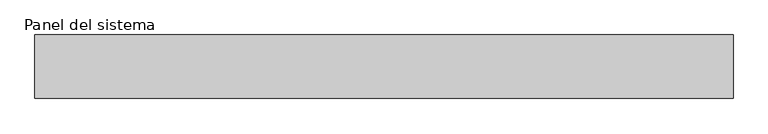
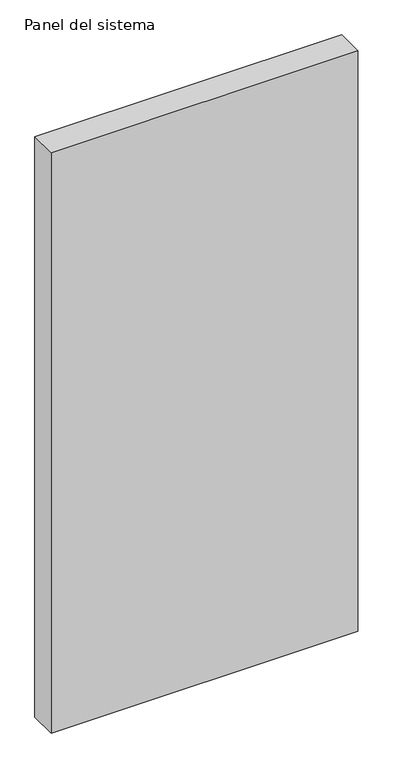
"""IFC4 building model written with IfcOpenShell, lengths in millimetres: plate geometry, Panel del sistema : Hiansa Panel - Fachada Panel PERFILADO Vert - 100mm."""

from ifc_helpers import new_model, si_unit, origin, origin_with_axes, place, context, project, spatial, polyline, outline, extrude, source, transform, mapped, element, save


def panel_del_sistema_becaef52(model_context):
    return source(origin(), model_context, "Body", "SweptSolid", [
        extrude(outline(polyline([(550.0000002, -100.0), (-550.0000002, -100.0), (-550.0000002, 0.0), (550.0000002, 0.0), (550.0000002, -100.0)])), origin_with_axes(), (0.0, 0.0, 1.0), 2200.0),
    ])


if __name__ == "__main__":
    model = new_model("IFC4")
    model_context = context("Model", 3, world=origin())
    ifc_project = project(units=[si_unit("LENGTHUNIT", "METRE", prefix="MILLI")], contexts=[model_context])
    site = spatial("IfcSite", under=ifc_project)
    building = spatial("IfcBuilding", under=site)
    placement = place(None, origin())
    panel_del_sistema_shape = panel_del_sistema_becaef52(model_context)
    element("IfcPlate", 1, ObjectType="Panel del sistema : Hiansa Panel - Fachada Panel PERFILADO Vert - 100mm", at=placement, inside=building, context=model_context, shape_type="MappedRepresentation", body=[
        mapped(panel_del_sistema_shape, transform((0.0, 0.0, 0.0), x_axis=(1.0, 0.0, 0.0), y_axis=(0.0, 1.0, 0.0), z_axis=(0.0, 0.0, 1.0))),
    ])
    save(model, "model.ifc")
